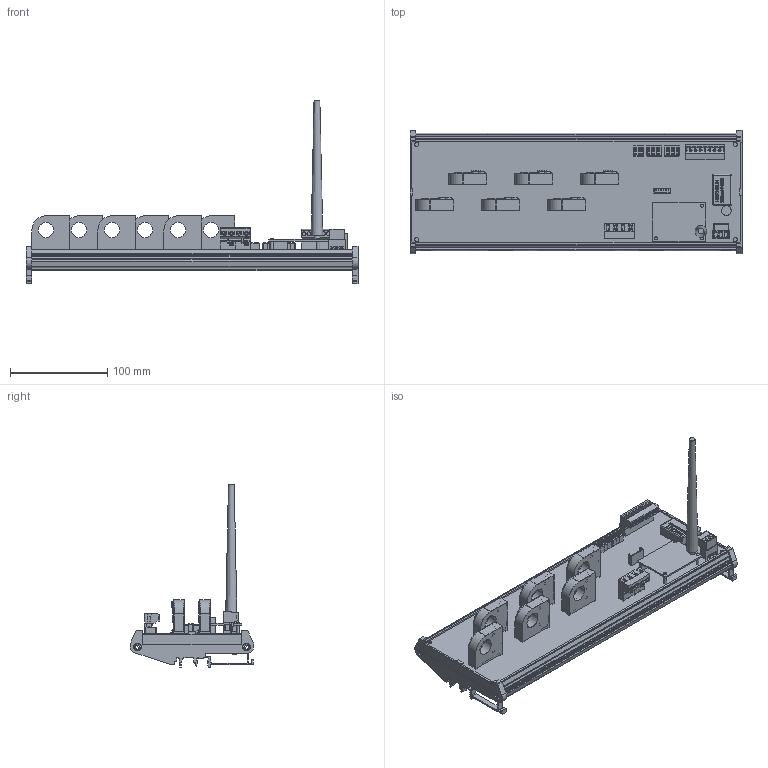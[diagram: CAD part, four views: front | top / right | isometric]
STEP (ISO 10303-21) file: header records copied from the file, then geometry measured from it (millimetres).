
FILE_DESCRIPTION(('FreeCAD Model'),'2;1');
FILE_NAME('C:/3D Files/Stringhe/ST0HS/ST0HS06x00 WR/ST0HS06x00 WR.step', '2022-06-01T15:39:27',('Author'),(''), 'Open CASCADE STEP processor 7.3','FreeCAD','Unknown');
FILE_SCHEMA(('AUTOMOTIVE_DESIGN { 1 0 10303 214 1 1 1 1 }'));
Length unit declared in the file: millimetre
Products named in the file (31): ST0HS06x00_WR; AmpModu_6P_M; DipSwitch4; WRB2403ZP-6WR003; ELNA_470_uF_35_V; Mstb_03P_F; Mstb_03Pc_M; SH04-7,62; PV02-7,62-V-Pa; PV02-7,62-V-Pb; Mstb_8P_F; Mstb_8Pc_M; Hall_Sensor_45_A_CH_1; Hall_Sensor_45_A_CH_2; Spacer-001; Spacer-002; Spacer-003; Strip_7x1; Antenna; E108_Module; Base_Antenna; Hall_Sensor_45_A_CH_3; Hall_Sensor_45_A_CH_4; Hall_Sensor_45_A_CH_5; Hall_Sensor_45_A_CH_6; Profilo_342x128; Stampato_338_x_108; DipSwitch005; DipSwitch007; DipSwitch008; DipSwitch006
Assembly tree (30 placements, depth 2):
  ST0HS06x00_WR
    AmpModu_6P_M
    DipSwitch4
    WRB2403ZP-6WR003
    ELNA_470_uF_35_V
    Mstb_03P_F
    Mstb_03Pc_M
    SH04-7,62
    PV02-7,62-V-Pa
    PV02-7,62-V-Pb
    Mstb_8P_F
    Mstb_8Pc_M
    Hall_Sensor_45_A_CH_1
    Hall_Sensor_45_A_CH_2
    Spacer-001
    Spacer-002
    Spacer-003
    Strip_7x1
    Antenna
    E108_Module
    Base_Antenna
    Hall_Sensor_45_A_CH_3
    Hall_Sensor_45_A_CH_4
    Hall_Sensor_45_A_CH_5
    Hall_Sensor_45_A_CH_6
    Profilo_342x128
    Stampato_338_x_108
    DipSwitch005
    DipSwitch007
    DipSwitch008
    DipSwitch006
Bounding box: 342 x 127.59 x 188.79 mm (x, y, z)
Volume: 256419.4 mm3; surface area: 333102.8 mm2
Topology: 38 solids, 59 shells, 4471 faces, 12631 edges, 10174 vertices
Faces by surface type: plane 3510, cylinder 613, bspline 219, torus 56, cone 42, sphere 28, extrusion 3
Full cylindrical faces by diameter (mm): 0.75 x52, 1 x10, 1.5 x8, 1.6 x7, 3.1 x3, 3.8 x4, 4 x19, 6 x1, 7.9 x4, 10 x1
Entity records: 336233 total; most frequent: CARTESIAN_POINT 73340, DIRECTION 41953, VECTOR 29217, LINE 29214, ORIENTED_EDGE 23666, PCURVE 23666, DEFINITIONAL_REPRESENTATION 23666, EDGE_CURVE 12039
